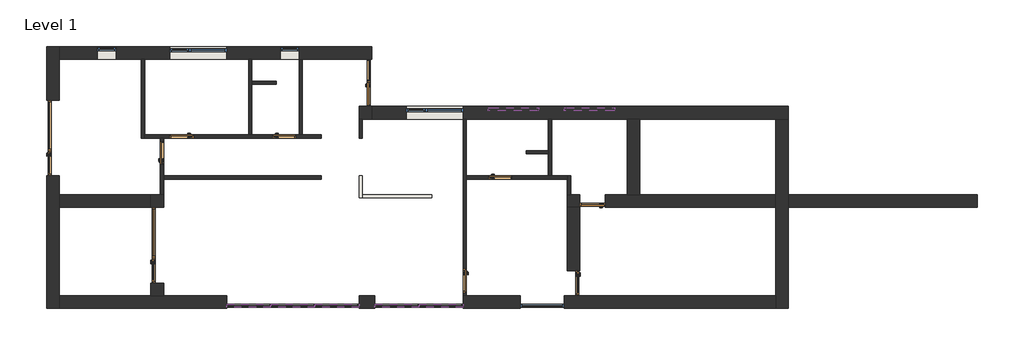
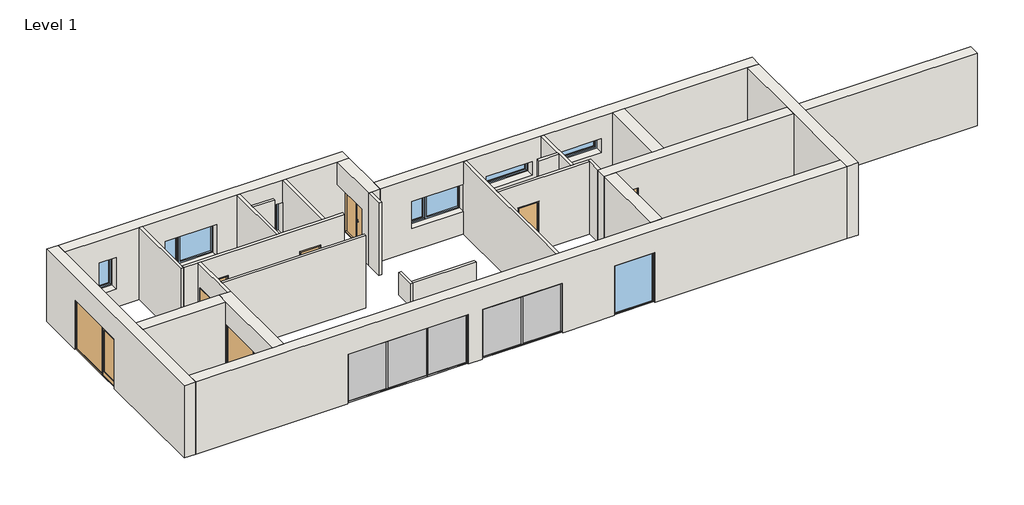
# One storey: 26 walls, 17 members, 10 doors, 7 windows, 5 plates.
"""IFC4 building model written with IfcOpenShell, lengths in millimetres."""

from ifc_helpers import new_model, si_unit, origin, origin_with_axes, place, context, project, spatial, polyline, outline, extrude, faceted_brep, transform, mapped, element, save
from components import door_1800x2200_mm_7a9b0269, ext_door_window_assembly_glass_2880x2200_mm_ebeafb6b, ext_single_flush_out_glass_960x2200_mm_f4f0ea2b, ext_single_flush1_960x2200_mm_7c25dc53, int_single_flush1_900x2200_mm_083ae047, int_single_flush1_900x2200_mm_924e3177, rectangular_mullion_exterior_50x115mm_b31c03e9, rectangular_mullion_exterior_50x115mm_eaa21abb, rectangular_mullion_exterior_50x115mm_593a1a29, system_panel_exterior_glass_22mm_baca3ab9, system_panel_exterior_glass_22mm_266c4f93, fixed_1680x2200_mm_e3bfc0e5, single_light_top_hinged_1920x600_dd11e4f9, single_light_720x1400_mm_50d61ae6, window_assembly_individual_2160x1200_mm_f898fd7d, window_assembly_individual_2160x1400_mm_6f070fa8

model = new_model("IFC4")

# Units and contexts
model_context = context("Model", 3, world=origin())
ifc_project = project(units=[si_unit("LENGTHUNIT", "METRE", prefix="MILLI")], contexts=[model_context])

# Site, building, storey
site = spatial("IfcSite", under=ifc_project)
building = spatial("IfcBuilding", under=site)
storey = spatial("IfcBuildingStorey", under=building, Name="Level 1", Elevation=0.0)

# Doors
placement = place(None, origin())
door_1800x2200_mm_shape = door_1800x2200_mm_7a9b0269(model_context)
element("IfcDoor", 1, ObjectType="Ext. Door inw. Window Assembly : 1800x2200 mm", at=placement, inside=storey, context=model_context, shape_type="MappedRepresentation", body=[
    mapped(door_1800x2200_mm_shape, transform((12120.0, 8580.0, 0.0), x_axis=(0.0, -1.0, 0.0), y_axis=(1.0, 0.0, 0.0), z_axis=(0.0, 0.0, 1.0))),
])
ext_door_window_assembly_glass_2880x2200_mm_shape = ext_door_window_assembly_glass_2880x2200_mm_ebeafb6b(model_context)
element("IfcDoor", 2, ObjectType="Ext. Door Window Assembly - Glass : 2880x2200 mm", at=placement, inside=storey, context=model_context, shape_type="MappedRepresentation", body=[
    mapped(ext_door_window_assembly_glass_2880x2200_mm_shape, transform((4200.0, 2400.0, 0.0), x_axis=(0.0, -1.0, 0.0), y_axis=(1.0, 0.0, 0.0), z_axis=(0.0, 0.0, 1.0))),
])
element("IfcDoor", 3, ObjectType="Ext. Door Window Assembly - Glass : 2880x2200 mm", at=placement, inside=storey, context=model_context, shape_type="MappedRepresentation", body=[
    mapped(ext_door_window_assembly_glass_2880x2200_mm_shape, transform((240.0, 6480.0, 0.0), x_axis=(0.0, -1.0, 0.0), y_axis=(1.0, 0.0, 0.0), z_axis=(0.0, 0.0, 1.0))),
])
ext_single_flush_out_glass_960x2200_mm_shape = ext_single_flush_out_glass_960x2200_mm_f4f0ea2b(model_context)
element("IfcDoor", 4, ObjectType="Ext. Single-Flush out - Glass : 960x2200 mm", at=placement, inside=storey, context=model_context, shape_type="MappedRepresentation", body=[
    mapped(ext_single_flush_out_glass_960x2200_mm_shape, transform((20040.0, 960.0, 0.0), x_axis=(0.0, -1.0, 0.0), y_axis=(1.0, 0.0, 0.0), z_axis=(0.0, 0.0, 1.0))),
])
ext_single_flush1_960x2200_mm_shape = ext_single_flush1_960x2200_mm_7c25dc53(model_context)
element("IfcDoor", 5, ObjectType="Ext. Single-Flush1 : 960x2200 mm", at=placement, inside=storey, context=model_context, shape_type="MappedRepresentation", body=[
    mapped(ext_single_flush1_960x2200_mm_shape, transform((20760.0, 4080.0, 0.0), x_axis=(-1.0, 0.0, 0.0), y_axis=(0.0, -1.0, 0.0), z_axis=(0.0, 0.0, 1.0))),
])
int_single_flush1_900x2200_mm_shape = int_single_flush1_900x2200_mm_083ae047(model_context)
element("IfcDoor", 6, ObjectType="Int. Single-Flush1 : 900x2200 mm", at=placement, inside=storey, context=model_context, shape_type="MappedRepresentation", body=[
    mapped(int_single_flush1_900x2200_mm_shape, transform((4380.0, 5910.0, 0.0), x_axis=(0.0, 1.0, 0.0), y_axis=(-1.0, 0.0, 0.0), z_axis=(0.0, 0.0, 1.0))),
])
element("IfcDoor", 7, ObjectType="Int. Single-Flush1 : 900x2200 mm", at=placement, inside=storey, context=model_context, shape_type="MappedRepresentation", body=[
    mapped(int_single_flush1_900x2200_mm_shape, transform((9030.0, 6540.0, 0.0), x_axis=(1.0, 0.0, 0.0), y_axis=(0.0, 1.0, 0.0), z_axis=(0.0, 0.0, 1.0))),
])
element("IfcDoor", 8, ObjectType="Int. Single-Flush1 : 900x2200 mm", at=placement, inside=storey, context=model_context, shape_type="MappedRepresentation", body=[
    mapped(int_single_flush1_900x2200_mm_shape, transform((17250.0, 4980.0, 0.0), x_axis=(1.0, 0.0, 0.0), y_axis=(0.0, 1.0, 0.0), z_axis=(0.0, 0.0, 1.0))),
])
element("IfcDoor", 9, ObjectType="Int. Single-Flush1 : 900x2200 mm", at=placement, inside=storey, context=model_context, shape_type="MappedRepresentation", body=[
    mapped(int_single_flush1_900x2200_mm_shape, transform((15900.0, 1050.0, 0.0), x_axis=(0.0, -1.0, 0.0), y_axis=(1.0, 0.0, 0.0), z_axis=(0.0, 0.0, 1.0))),
])
int_single_flush1_900x2200_mm_2_shape = int_single_flush1_900x2200_mm_924e3177(model_context)
element("IfcDoor", 10, ObjectType="Int. Single-Flush1 : 900x2200 mm", at=placement, inside=storey, context=model_context, shape_type="MappedRepresentation", body=[
    mapped(int_single_flush1_900x2200_mm_2_shape, transform((5130.0, 6540.0, 0.0), x_axis=(-1.0, 0.0, 0.0), y_axis=(0.0, -1.0, 0.0), z_axis=(0.0, 0.0, 1.0))),
])

# Members
rectangular_mullion_exterior_50x115mm_shape = rectangular_mullion_exterior_50x115mm_b31c03e9(model_context)
element("IfcMember", 11, ObjectType="Rectangular Mullion : Exterior - 50x115mm", at=placement, inside=storey, context=model_context, shape_type="MappedRepresentation", body=[
    mapped(rectangular_mullion_exterior_50x115mm_shape, transform((6840.0, 50.0, 2200.0), x_axis=(0.0, 0.0, 1.0), y_axis=(0.0, 1.0, 0.0), z_axis=(-1.0, 0.0, 0.0))),
])
element("IfcMember", 12, ObjectType="Rectangular Mullion : Exterior - 50x115mm", at=placement, inside=storey, context=model_context, shape_type="MappedRepresentation", body=[
    mapped(rectangular_mullion_exterior_50x115mm_shape, transform((12480.0, 50.0, 2200.0), x_axis=(0.0, 0.0, 1.0), y_axis=(0.0, 1.0, 0.0), z_axis=(-1.0, 0.0, 0.0))),
])
element("IfcMember", 13, ObjectType="Rectangular Mullion : Exterior - 50x115mm", at=placement, inside=storey, context=model_context, shape_type="MappedRepresentation", body=[
    mapped(rectangular_mullion_exterior_50x115mm_shape, transform((11880.0, 50.0, 0.0), x_axis=(0.0, 0.0, -1.0), y_axis=(0.0, 1.0, 0.0), z_axis=(1.0, 0.0, 0.0))),
])
element("IfcMember", 14, ObjectType="Rectangular Mullion : Exterior - 50x115mm", at=placement, inside=storey, context=model_context, shape_type="MappedRepresentation", body=[
    mapped(rectangular_mullion_exterior_50x115mm_shape, transform((15840.0, 50.0, 0.0), x_axis=(0.0, 0.0, -1.0), y_axis=(0.0, 1.0, 0.0), z_axis=(1.0, 0.0, 0.0))),
])
rectangular_mullion_exterior_50x115mm_2_shape = rectangular_mullion_exterior_50x115mm_eaa21abb(model_context)
element("IfcMember", 15, ObjectType="Rectangular Mullion : Exterior - 50x115mm", at=placement, inside=storey, context=model_context, shape_type="MappedRepresentation", body=[
    mapped(rectangular_mullion_exterior_50x115mm_2_shape, transform((8520.0, 50.0, 50.0), x_axis=(-1.0, 0.0, 0.0), y_axis=(0.0, 1.0, 0.0), z_axis=(0.0, 0.0, -1.0))),
])
element("IfcMember", 16, ObjectType="Rectangular Mullion : Exterior - 50x115mm", at=placement, inside=storey, context=model_context, shape_type="MappedRepresentation", body=[
    mapped(rectangular_mullion_exterior_50x115mm_2_shape, transform((10200.0, 50.0, 50.0), x_axis=(-1.0, 0.0, 0.0), y_axis=(0.0, 1.0, 0.0), z_axis=(0.0, 0.0, -1.0))),
])
element("IfcMember", 17, ObjectType="Rectangular Mullion : Exterior - 50x115mm", at=placement, inside=storey, context=model_context, shape_type="MappedRepresentation", body=[
    mapped(rectangular_mullion_exterior_50x115mm_2_shape, transform((14160.0, 50.0, 50.0), x_axis=(-1.0, 0.0, 0.0), y_axis=(0.0, 1.0, 0.0), z_axis=(0.0, 0.0, -1.0))),
])
element("IfcMember", 18, ObjectType="Rectangular Mullion : Exterior - 50x115mm", at=placement, inside=storey, context=model_context, shape_type="MappedRepresentation", body=[
    mapped(rectangular_mullion_exterior_50x115mm_shape, transform((8520.0, 50.0, 0.0), x_axis=(0.0, 0.0, -1.0), y_axis=(0.0, 1.0, 0.0), z_axis=(1.0, 0.0, 0.0))),
])
element("IfcMember", 19, ObjectType="Rectangular Mullion : Exterior - 50x115mm", at=placement, inside=storey, context=model_context, shape_type="MappedRepresentation", body=[
    mapped(rectangular_mullion_exterior_50x115mm_shape, transform((14160.0, 50.0, 0.0), x_axis=(0.0, 0.0, -1.0), y_axis=(0.0, 1.0, 0.0), z_axis=(1.0, 0.0, 0.0))),
])
element("IfcMember", 20, ObjectType="Rectangular Mullion : Exterior - 50x115mm", at=placement, inside=storey, context=model_context, shape_type="MappedRepresentation", body=[
    mapped(rectangular_mullion_exterior_50x115mm_shape, transform((10200.0, 50.0, 0.0), x_axis=(0.0, 0.0, -1.0), y_axis=(0.0, 1.0, 0.0), z_axis=(1.0, 0.0, 0.0))),
])
element("IfcMember", 21, ObjectType="Rectangular Mullion : Exterior - 50x115mm", at=placement, inside=storey, context=model_context, shape_type="MappedRepresentation", body=[
    mapped(rectangular_mullion_exterior_50x115mm_shape, transform((8520.0, 50.0, 2200.0), x_axis=(0.0, 0.0, 1.0), y_axis=(0.0, 1.0, 0.0), z_axis=(-1.0, 0.0, 0.0))),
])
element("IfcMember", 22, ObjectType="Rectangular Mullion : Exterior - 50x115mm", at=placement, inside=storey, context=model_context, shape_type="MappedRepresentation", body=[
    mapped(rectangular_mullion_exterior_50x115mm_shape, transform((10200.0, 50.0, 2200.0), x_axis=(0.0, 0.0, 1.0), y_axis=(0.0, 1.0, 0.0), z_axis=(-1.0, 0.0, 0.0))),
])
element("IfcMember", 23, ObjectType="Rectangular Mullion : Exterior - 50x115mm", at=placement, inside=storey, context=model_context, shape_type="MappedRepresentation", body=[
    mapped(rectangular_mullion_exterior_50x115mm_shape, transform((14160.0, 50.0, 2200.0), x_axis=(0.0, 0.0, 1.0), y_axis=(0.0, 1.0, 0.0), z_axis=(-1.0, 0.0, 0.0))),
])
rectangular_mullion_exterior_50x115mm_3_shape = rectangular_mullion_exterior_50x115mm_593a1a29(model_context)
element("IfcMember", 24, ObjectType="Rectangular Mullion : Exterior - 50x115mm", at=placement, inside=storey, context=model_context, shape_type="MappedRepresentation", body=[
    mapped(rectangular_mullion_exterior_50x115mm_3_shape, transform((11880.0, 50.0, 2150.0), x_axis=(1.0, 0.0, 0.0), y_axis=(0.0, 1.0, 0.0), z_axis=(0.0, 0.0, 1.0))),
])
element("IfcMember", 25, ObjectType="Rectangular Mullion : Exterior - 50x115mm", at=placement, inside=storey, context=model_context, shape_type="MappedRepresentation", body=[
    mapped(rectangular_mullion_exterior_50x115mm_3_shape, transform((15840.0, 50.0, 2150.0), x_axis=(1.0, 0.0, 0.0), y_axis=(0.0, 1.0, 0.0), z_axis=(0.0, 0.0, 1.0))),
])
element("IfcMember", 26, ObjectType="Rectangular Mullion : Exterior - 50x115mm", at=placement, inside=storey, context=model_context, shape_type="MappedRepresentation", body=[
    mapped(rectangular_mullion_exterior_50x115mm_3_shape, transform((6840.0, 50.0, 50.0), x_axis=(-1.0, 0.0, 0.0), y_axis=(0.0, 1.0, 0.0), z_axis=(0.0, 0.0, -1.0))),
])
element("IfcMember", 27, ObjectType="Rectangular Mullion : Exterior - 50x115mm", at=placement, inside=storey, context=model_context, shape_type="MappedRepresentation", body=[
    mapped(rectangular_mullion_exterior_50x115mm_3_shape, transform((12480.0, 50.0, 50.0), x_axis=(-1.0, 0.0, 0.0), y_axis=(0.0, 1.0, 0.0), z_axis=(0.0, 0.0, -1.0))),
])

# Plates
system_panel_exterior_glass_22mm_shape = system_panel_exterior_glass_22mm_baca3ab9(model_context)
element("IfcPlate", 28, ObjectType="System Panel : Exterior - Glass 22mm", at=placement, inside=storey, context=model_context, shape_type="MappedRepresentation", body=[
    mapped(system_panel_exterior_glass_22mm_shape, transform((11027.5, 50.0, 50.0), x_axis=(-1.0, 0.0, 0.0), y_axis=(0.0, -1.0, 0.0), z_axis=(0.0, 0.0, 1.0))),
])
element("IfcPlate", 29, ObjectType="System Panel : Exterior - Glass 22mm", at=placement, inside=storey, context=model_context, shape_type="MappedRepresentation", body=[
    mapped(system_panel_exterior_glass_22mm_shape, transform((7692.5, 50.0, 50.0), x_axis=(-1.0, 0.0, 0.0), y_axis=(0.0, -1.0, 0.0), z_axis=(0.0, 0.0, 1.0))),
])
element("IfcPlate", 30, ObjectType="System Panel : Exterior - Glass 22mm", at=placement, inside=storey, context=model_context, shape_type="MappedRepresentation", body=[
    mapped(system_panel_exterior_glass_22mm_shape, transform((14987.5, 50.0, 50.0), x_axis=(-1.0, 0.0, 0.0), y_axis=(0.0, -1.0, 0.0), z_axis=(0.0, 0.0, 1.0))),
])
element("IfcPlate", 31, ObjectType="System Panel : Exterior - Glass 22mm", at=placement, inside=storey, context=model_context, shape_type="MappedRepresentation", body=[
    mapped(system_panel_exterior_glass_22mm_shape, transform((13332.5, 50.0, 50.0), x_axis=(-1.0, 0.0, 0.0), y_axis=(0.0, -1.0, 0.0), z_axis=(0.0, 0.0, 1.0))),
])
system_panel_exterior_glass_22mm_2_shape = system_panel_exterior_glass_22mm_266c4f93(model_context)
element("IfcPlate", 32, ObjectType="System Panel : Exterior - Glass 22mm", at=placement, inside=storey, context=model_context, shape_type="MappedRepresentation", body=[
    mapped(system_panel_exterior_glass_22mm_2_shape, transform((9360.0, 50.0, 50.0), x_axis=(-1.0, 0.0, 0.0), y_axis=(0.0, -1.0, 0.0), z_axis=(0.0, 0.0, 1.0))),
])

# Walls
element("IfcWall", 33, ObjectType="Generic - 120mm (Interior)", at=placement, inside=storey, context=model_context, shape_type="Brep", body=[
    faceted_brep([(3600.0, 9480.0, 0.0), (3600.0, 6480.0, 0.0), (3600.0, 6480.0, 3200.0), (3600.0, 9480.0, 3200.0), (3720.0, 9480.0, 0.0), (3720.0, 9480.0, 3200.0), (3720.0, 6600.0, 3200.0), (3720.0, 6480.0, 3200.0), (3720.0, 6480.0, 0.0), (3720.0, 6600.0, 0.0)], [[[0, 1, 2, 3]], [[4, 5, 6, 7, 8, 9]], [[1, 0, 4, 9, 8]], [[3, 2, 7, 6, 5]], [[2, 1, 8, 7]], [[0, 3, 5, 4]]]),
])
element("IfcWall", 34, ObjectType="Generic - 120mm (Interior)", at=placement, inside=storey, context=model_context, shape_type="Brep", body=[
    faceted_brep([(10440.0, 6480.0, 0.0), (10440.0, 6480.0, 3200.0), (4440.0, 6480.0, 3200.0), (4320.0, 6480.0, 3200.0), (3720.0, 6480.0, 3200.0), (3720.0, 6480.0, 0.0), (4320.0, 6480.0, 0.0), (4440.0, 6480.0, 0.0), (4680.0, 6480.0, 0.0), (4680.0, 6480.0, 2200.0), (5580.0, 6480.0, 2200.0), (5580.0, 6480.0, 0.0), (8580.0, 6480.0, 0.0), (8580.0, 6480.0, 2200.0), (9480.0, 6480.0, 2200.0), (9480.0, 6480.0, 0.0), (10440.0, 6600.0, 3200.0), (10440.0, 6600.0, 0.0), (9720.0, 6600.0, 0.0), (9600.0, 6600.0, 0.0), (9480.0, 6600.0, 0.0), (9480.0, 6600.0, 2200.0), (8580.0, 6600.0, 2200.0), (8580.0, 6600.0, 0.0), (7800.0, 6600.0, 0.0), (7680.0, 6600.0, 0.0), (5580.0, 6600.0, 0.0), (5580.0, 6600.0, 2200.0), (4680.0, 6600.0, 2200.0), (4680.0, 6600.0, 0.0), (3720.0, 6600.0, 0.0), (3720.0, 6600.0, 3200.0), (7680.0, 6600.0, 3200.0), (7800.0, 6600.0, 3200.0), (9600.0, 6600.0, 3200.0), (9720.0, 6600.0, 3200.0)], [[[0, 1, 2, 3, 4, 5, 6, 7, 8, 9, 10, 11, 12, 13, 14, 15]], [[16, 17, 18, 19, 20, 21, 22, 23, 24, 25, 26, 27, 28, 29, 30, 31, 32, 33, 34, 35]], [[17, 0, 15, 20, 19, 18]], [[5, 30, 29, 8, 7, 6]], [[23, 12, 11, 26, 25, 24]], [[1, 0, 17, 16]], [[4, 3, 2, 1, 16, 35, 34, 33, 32, 31]], [[5, 4, 31, 30]], [[14, 21, 20, 15]], [[21, 14, 13, 22]], [[22, 13, 12, 23]], [[28, 9, 8, 29]], [[9, 28, 27, 10]], [[10, 27, 26, 11]]]),
])
element("IfcWall", 35, ObjectType="Generic - 120mm (Interior)", at=placement, inside=storey, context=model_context, shape_type="Brep", body=[
    faceted_brep([(4440.0, 6480.0, 3200.0), (4440.0, 5040.0, 3200.0), (4440.0, 4920.0, 3200.0), (4440.0, 4320.0, 3200.0), (4440.0, 4320.0, 0.0), (4440.0, 4920.0, 0.0), (4440.0, 5040.0, 0.0), (4440.0, 5460.0, 0.0), (4440.0, 5460.0, 2200.0), (4440.0, 6360.0, 2200.0), (4440.0, 6360.0, 0.0), (4440.0, 6480.0, 0.0), (4320.0, 4320.0, 3200.0), (4320.0, 6480.0, 3200.0), (4320.0, 6480.0, 0.0), (4320.0, 6360.0, 0.0), (4320.0, 6360.0, 2200.0), (4320.0, 5460.0, 2200.0), (4320.0, 5460.0, 0.0), (4320.0, 4320.0, 0.0)], [[[0, 1, 2, 3, 4, 5, 6, 7, 8, 9, 10, 11]], [[12, 13, 14, 15, 16, 17, 18, 19]], [[14, 11, 10, 15]], [[4, 19, 18, 7, 6, 5]], [[3, 2, 1, 0, 13, 12]], [[0, 11, 14, 13]], [[4, 3, 12, 19]], [[9, 16, 15, 10]], [[16, 9, 8, 17]], [[17, 8, 7, 18]]]),
])
element("IfcWall", 36, ObjectType="Generic - 120mm (Interior)", at=placement, inside=storey, context=model_context, shape_type="Brep", body=[
    faceted_brep([(7800.0, 6600.0, 0.0), (7800.0, 8520.0, 0.0), (7800.0, 8640.0, 0.0), (7800.0, 9480.0, 0.0), (7800.0, 9480.0, 3200.0), (7800.0, 8640.0, 3200.0), (7800.0, 8520.0, 3200.0), (7800.0, 6600.0, 3200.0), (7680.0, 6600.0, 0.0), (7680.0, 6600.0, 3200.0), (7680.0, 9480.0, 3200.0), (7680.0, 9480.0, 0.0)], [[[0, 1, 2, 3, 4, 5, 6, 7]], [[8, 9, 10, 11]], [[3, 2, 1, 0, 8, 11]], [[7, 6, 5, 4, 10, 9]], [[0, 7, 9, 8]], [[4, 3, 11, 10]]]),
])
element("IfcWall", 37, ObjectType="Generic - 120mm (Interior)", at=placement, inside=storey, context=model_context, shape_type="SweptSolid", body=[
    extrude(outline(polyline([(9720.0, 9480.0), (9720.0, 6600.0), (9600.0, 6600.0), (9600.0, 9480.0), (9720.0, 9480.0)])), origin_with_axes(), (0.0, 0.0, 1.0), 3200.0),
])
element("IfcWall", 38, ObjectType="Generic - 120mm (Interior)", at=placement, inside=storey, context=model_context, shape_type="Brep", body=[
    faceted_brep([(15960.0, 7200.0, 3200.0), (15960.0, 5040.0, 3200.0), (15960.0, 4920.0, 3200.0), (15960.0, 480.0, 3200.0), (15960.0, 480.0, 0.0), (15960.0, 600.0, 0.0), (15960.0, 600.0, 2200.0), (15960.0, 1500.0, 2200.0), (15960.0, 1500.0, 0.0), (15960.0, 4920.0, 0.0), (15960.0, 5040.0, 0.0), (15960.0, 7200.0, 0.0), (15840.0, 480.0, 3200.0), (15840.0, 7200.0, 3200.0), (15840.0, 7200.0, 2200.0), (15840.0, 7200.0, 1000.0), (15840.0, 7200.0, 0.0), (15840.0, 1500.0, 0.0), (15840.0, 1500.0, 2200.0), (15840.0, 600.0, 2200.0), (15840.0, 600.0, 0.0), (15840.0, 480.0, 0.0), (15840.0, 480.0, 2200.0)], [[[0, 1, 2, 3, 4, 5, 6, 7, 8, 9, 10, 11]], [[12, 13, 14, 15, 16, 17, 18, 19, 20, 21, 22]], [[4, 21, 20, 5]], [[16, 11, 10, 9, 8, 17]], [[3, 2, 1, 0, 13, 12]], [[0, 11, 16, 15, 14, 13]], [[4, 3, 12, 22, 21]], [[19, 6, 5, 20]], [[6, 19, 18, 7]], [[7, 18, 17, 8]]]),
])
element("IfcWall", 39, ObjectType="Generic - 120mm (Interior)", at=placement, inside=storey, context=model_context, shape_type="Brep", body=[
    faceted_brep([(19920.0, 4320.0, 0.0), (19920.0, 5040.0, 0.0), (19920.0, 5040.0, 3200.0), (19920.0, 4320.0, 3200.0), (19800.0, 4320.0, 0.0), (19800.0, 4320.0, 3200.0), (19800.0, 4920.0, 3200.0), (19800.0, 5040.0, 3200.0), (19800.0, 5040.0, 0.0), (19800.0, 4920.0, 0.0)], [[[0, 1, 2, 3]], [[4, 5, 6, 7, 8, 9]], [[1, 0, 4, 9, 8]], [[3, 2, 7, 6, 5]], [[2, 1, 8, 7]], [[0, 3, 5, 4]]]),
])
element("IfcWall", 40, ObjectType="Generic - 120mm (Interior)", at=placement, inside=storey, context=model_context, shape_type="Brep", body=[
    faceted_brep([(15960.0, 5040.0, 3200.0), (19080.0, 5040.0, 3200.0), (19200.0, 5040.0, 3200.0), (19800.0, 5040.0, 3200.0), (19800.0, 5040.0, 0.0), (19200.0, 5040.0, 0.0), (19080.0, 5040.0, 0.0), (17700.0, 5040.0, 0.0), (17700.0, 5040.0, 2200.0), (16800.0, 5040.0, 2200.0), (16800.0, 5040.0, 0.0), (15960.0, 5040.0, 0.0), (19800.0, 4920.0, 3200.0), (15960.0, 4920.0, 3200.0), (15960.0, 4920.0, 0.0), (16800.0, 4920.0, 0.0), (16800.0, 4920.0, 2200.0), (17700.0, 4920.0, 2200.0), (17700.0, 4920.0, 0.0), (19800.0, 4920.0, 0.0)], [[[0, 1, 2, 3, 4, 5, 6, 7, 8, 9, 10, 11]], [[12, 13, 14, 15, 16, 17, 18, 19]], [[4, 19, 18, 7, 6, 5]], [[14, 11, 10, 15]], [[3, 2, 1, 0, 13, 12]], [[4, 3, 12, 19]], [[0, 11, 14, 13]], [[17, 8, 7, 18]], [[8, 17, 16, 9]], [[9, 16, 15, 10]]]),
])
element("IfcWall", 41, ObjectType="Generic - 120mm (Interior)", at=placement, inside=storey, context=model_context, shape_type="Brep", body=[
    faceted_brep([(19200.0, 5040.0, 0.0), (19200.0, 7200.0, 0.0), (19200.0, 7200.0, 3200.0), (19200.0, 5040.0, 3200.0), (19080.0, 5040.0, 0.0), (19080.0, 5040.0, 3200.0), (19080.0, 5880.0, 3200.0), (19080.0, 6000.0, 3200.0), (19080.0, 7200.0, 3200.0), (19080.0, 7200.0, 0.0), (19080.0, 6000.0, 0.0), (19080.0, 5880.0, 0.0)], [[[0, 1, 2, 3]], [[4, 5, 6, 7, 8, 9, 10, 11]], [[1, 0, 4, 11, 10, 9]], [[3, 2, 8, 7, 6, 5]], [[0, 3, 5, 4]], [[2, 1, 9, 8]]]),
])
element("IfcWall", 42, ObjectType="Generic - 120mm (Interior)", at=placement, inside=storey, context=model_context, shape_type="SweptSolid", body=[
    extrude(outline(polyline([(18240.0, 6000.0), (19080.0, 6000.0), (19080.0, 5880.0), (18240.0, 5880.0), (18240.0, 6000.0)])), origin_with_axes(), (0.0, 0.0, 1.0), 3200.0),
])
element("IfcWall", 43, ObjectType="Generic - 120mm (Interior)", at=placement, inside=storey, context=model_context, shape_type="SweptSolid", body=[
    extrude(outline(polyline([(8720.0, 8520.0), (7800.0, 8520.0), (7800.0, 8640.0), (8720.0, 8640.0), (8720.0, 8520.0)])), origin_with_axes(), (0.0, 0.0, 1.0), 3200.0),
])
element("IfcWall", 44, ObjectType="Generic - 120mm (Interior)", at=placement, inside=storey, context=model_context, shape_type="SweptSolid", body=[
    extrude(outline(polyline([(10440.0, 4920.0), (4440.0, 4920.0), (4440.0, 5040.0), (10440.0, 5040.0), (10440.0, 4920.0)])), origin_with_axes(), (0.0, 0.0, 1.0), 3200.0),
])
element("IfcWall", 45, ObjectType="Generic - 120mm (Interior)", at=placement, inside=storey, context=model_context, shape_type="Brep", body=[
    faceted_brep([(11880.0, 5040.0, 0.0), (11880.0, 4200.0, 0.0), (11880.0, 4200.0, 1000.0), (11880.0, 5040.0, 1000.0), (12000.0, 5040.0, 0.0), (12000.0, 5040.0, 1000.0), (12000.0, 4320.0, 1000.0), (12000.0, 4200.0, 1000.0), (12000.0, 4200.0, 0.0), (12000.0, 4320.0, 0.0)], [[[0, 1, 2, 3]], [[4, 5, 6, 7, 8, 9]], [[1, 0, 4, 9, 8]], [[3, 2, 7, 6, 5]], [[0, 3, 5, 4]], [[2, 1, 8, 7]]]),
])
element("IfcWall", 46, ObjectType="Generic - 120mm (Interior)", at=placement, inside=storey, context=model_context, shape_type="SweptSolid", body=[
    extrude(outline(polyline([(14640.0, 4200.0), (12000.0, 4200.0), (12000.0, 4320.0), (14640.0, 4320.0), (14640.0, 4200.0)])), origin_with_axes(), (0.0, 0.0, 1.0), 1000.0),
])
element("IfcWall", 47, ObjectType="Generic - 120mm (Interior)", at=placement, inside=storey, context=model_context, shape_type="SweptSolid", body=[
    extrude(outline(polyline([(11880.0, 6480.0), (11880.0, 7200.0), (12000.0, 7200.0), (12000.0, 6480.0), (11880.0, 6480.0)])), origin_with_axes(), (0.0, 0.0, 1.0), 3200.0),
])
element("IfcWall", 48, ObjectType="Generic - 480mm (Exterior)", at=placement, inside=storey, context=model_context, shape_type="Brep", body=[
    faceted_brep([(480.0, 9960.0, 3200.0), (480.0, 9480.0, 3200.0), (480.0, 4320.0, 3200.0), (480.0, 3840.0, 3200.0), (480.0, 480.0, 3200.0), (480.0, 0.0, 3200.0), (480.0, 0.0, 0.0), (480.0, 480.0, 0.0), (480.0, 3840.0, 0.0), (480.0, 4320.0, 0.0), (480.0, 5040.0, 0.0), (480.0, 5040.0, 2212.0), (480.0, 7920.0, 2212.0), (480.0, 7920.0, 0.0), (480.0, 9480.0, 0.0), (480.0, 9960.0, 0.0), (0.0, 0.0, 3200.0), (0.0, 9960.0, 3200.0), (0.0, 9960.0, 0.0), (0.0, 7920.0, 0.0), (0.0, 7920.0, 2212.0), (0.0, 5040.0, 2212.0), (0.0, 5040.0, 0.0), (0.0, 0.0, 0.0)], [[[0, 1, 2, 3, 4, 5, 6, 7, 8, 9, 10, 11, 12, 13, 14, 15]], [[16, 17, 18, 19, 20, 21, 22, 23]], [[18, 15, 14, 13, 19]], [[6, 23, 22, 10, 9, 8, 7]], [[5, 4, 3, 2, 1, 0, 17, 16]], [[0, 15, 18, 17]], [[6, 5, 16, 23]], [[21, 11, 10, 22]], [[11, 21, 20, 12]], [[12, 20, 19, 13]]]),
])
element("IfcWall", 49, ObjectType="Generic - 480mm (Exterior)", at=placement, inside=storey, context=model_context, shape_type="Brep", body=[
    faceted_brep([(480.0, 9480.0, 0.0), (3600.0, 9480.0, 0.0), (3720.0, 9480.0, 0.0), (7680.0, 9480.0, 0.0), (7800.0, 9480.0, 0.0), (9600.0, 9480.0, 0.0), (9720.0, 9480.0, 0.0), (12360.0, 9480.0, 0.0), (12360.0, 9480.0, 2200.0), (12360.0, 9480.0, 3200.0), (11880.0, 9480.0, 3200.0), (9720.0, 9480.0, 3200.0), (9600.0, 9480.0, 3200.0), (7800.0, 9480.0, 3200.0), (7680.0, 9480.0, 3200.0), (3720.0, 9480.0, 3200.0), (3600.0, 9480.0, 3200.0), (480.0, 9480.0, 3200.0), (6840.0, 9480.0, 800.0), (4680.0, 9480.0, 800.0), (4680.0, 9480.0, 2200.0), (6840.0, 9480.0, 2200.0), (8880.0, 9480.0, 800.0), (8880.0, 9480.0, 2200.0), (9600.0, 9480.0, 2200.0), (9600.0, 9480.0, 800.0), (1920.0, 9480.0, 800.0), (1920.0, 9480.0, 2200.0), (2640.0, 9480.0, 2200.0), (2640.0, 9480.0, 800.0), (480.0, 9960.0, 0.0), (480.0, 9960.0, 3200.0), (12360.0, 9960.0, 3200.0), (12360.0, 9960.0, 0.0), (6840.0, 9960.0, 800.0), (6840.0, 9960.0, 2200.0), (4680.0, 9960.0, 2200.0), (4680.0, 9960.0, 800.0), (8880.0, 9960.0, 800.0), (9600.0, 9960.0, 800.0), (9600.0, 9960.0, 2200.0), (8880.0, 9960.0, 2200.0), (1920.0, 9960.0, 800.0), (2640.0, 9960.0, 800.0), (2640.0, 9960.0, 2200.0), (1920.0, 9960.0, 2200.0)], [[[0, 1, 2, 3, 4, 5, 6, 7, 8, 9, 10, 11, 12, 13, 14, 15, 16, 17], [18, 19, 20, 21], [22, 23, 24, 25], [26, 27, 28, 29]], [[30, 31, 32, 33], [34, 35, 36, 37], [38, 39, 40, 41], [42, 43, 44, 45]], [[7, 6, 5, 4, 3, 2, 1, 0, 30, 33]], [[17, 16, 15, 14, 13, 12, 11, 10, 9, 32, 31]], [[0, 17, 31, 30]], [[9, 8, 7, 33, 32]], [[35, 34, 18, 21]], [[36, 35, 21, 20]], [[37, 36, 20, 19]], [[34, 37, 19, 18]], [[23, 22, 38, 41]], [[24, 23, 41, 40]], [[25, 24, 40, 39]], [[22, 25, 39, 38]], [[27, 26, 42, 45]], [[28, 27, 45, 44]], [[29, 28, 44, 43]], [[26, 29, 43, 42]]]),
])
element("IfcWall", 50, ObjectType="Generic - 480mm (Exterior)", at=placement, inside=storey, context=model_context, shape_type="Brep", body=[
    faceted_brep([(11880.0, 7200.0, 3200.0), (11880.0, 9480.0, 3200.0), (11880.0, 9480.0, 2200.0), (11880.0, 7680.0, 2200.0), (11880.0, 7680.0, 0.0), (11880.0, 7200.0, 0.0), (12360.0, 9480.0, 3200.0), (12360.0, 7680.0, 3200.0), (12360.0, 7200.0, 3200.0), (12360.0, 7200.0, 0.0), (12360.0, 7680.0, 0.0), (12360.0, 7680.0, 2200.0), (12360.0, 9480.0, 2200.0), (12000.0, 7200.0, 0.0), (12000.0, 7200.0, 3200.0)], [[[0, 1, 2, 3, 4, 5]], [[6, 7, 8, 9, 10, 11, 12]], [[9, 13, 5, 4, 10]], [[1, 0, 14, 8, 7, 6]], [[1, 6, 12, 2]], [[0, 5, 13, 9, 8, 14]], [[3, 11, 10, 4]], [[11, 3, 2, 12]]]),
])
element("IfcWall", 51, ObjectType="Generic - 480mm (Exterior)", at=placement, inside=storey, context=model_context, shape_type="Brep", body=[
    faceted_brep([(12360.0, 7200.0, 0.0), (15840.0, 7200.0, 0.0), (15960.0, 7200.0, 0.0), (19080.0, 7200.0, 0.0), (19200.0, 7200.0, 0.0), (22080.0, 7200.0, 0.0), (22560.0, 7200.0, 0.0), (27720.0, 7200.0, 0.0), (28200.0, 7200.0, 0.0), (28200.0, 7200.0, 3200.0), (27720.0, 7200.0, 3200.0), (22560.0, 7200.0, 3200.0), (22080.0, 7200.0, 3200.0), (19200.0, 7200.0, 3200.0), (19080.0, 7200.0, 3200.0), (15960.0, 7200.0, 3200.0), (15840.0, 7200.0, 3200.0), (12360.0, 7200.0, 3200.0), (19680.0, 7200.0, 1600.0), (19680.0, 7200.0, 2200.0), (21600.0, 7200.0, 2200.0), (21600.0, 7200.0, 1600.0), (16800.0, 7200.0, 1600.0), (16800.0, 7200.0, 2200.0), (18720.0, 7200.0, 2200.0), (18720.0, 7200.0, 1600.0), (15840.0, 7200.0, 1000.0), (13680.0, 7200.0, 1000.0), (13680.0, 7200.0, 2200.0), (15840.0, 7200.0, 2200.0), (12360.0, 7680.0, 0.0), (12360.0, 7680.0, 2200.0), (12360.0, 7680.0, 3200.0), (28200.0, 7680.0, 3200.0), (28200.0, 7680.0, 0.0), (19680.0, 7680.0, 1600.0), (21600.0, 7680.0, 1600.0), (21600.0, 7680.0, 2200.0), (19680.0, 7680.0, 2200.0), (16800.0, 7680.0, 1600.0), (18720.0, 7680.0, 1600.0), (18720.0, 7680.0, 2200.0), (16800.0, 7680.0, 2200.0), (15840.0, 7680.0, 1000.0), (15840.0, 7680.0, 2200.0), (13680.0, 7680.0, 2200.0), (13680.0, 7680.0, 1000.0)], [[[0, 1, 2, 3, 4, 5, 6, 7, 8, 9, 10, 11, 12, 13, 14, 15, 16, 17], [18, 19, 20, 21], [22, 23, 24, 25], [26, 27, 28, 29]], [[30, 31, 32, 33, 34], [35, 36, 37, 38], [39, 40, 41, 42], [43, 44, 45, 46]], [[8, 7, 6, 5, 4, 3, 2, 1, 0, 30, 34]], [[17, 16, 15, 14, 13, 12, 11, 10, 9, 33, 32]], [[0, 17, 32, 31, 30]], [[9, 8, 34, 33]], [[19, 18, 35, 38]], [[20, 19, 38, 37]], [[21, 20, 37, 36]], [[18, 21, 36, 35]], [[23, 22, 39, 42]], [[24, 23, 42, 41]], [[25, 24, 41, 40]], [[22, 25, 40, 39]], [[44, 43, 26, 29]], [[45, 44, 29, 28]], [[46, 45, 28, 27]], [[43, 46, 27, 26]]]),
])
element("IfcWall", 52, ObjectType="Generic - 480mm (Exterior)", at=placement, inside=storey, context=model_context, shape_type="Brep", body=[
    faceted_brep([(27720.0, 7200.0, 0.0), (27720.0, 4320.0, 0.0), (27720.0, 3840.0, 0.0), (27720.0, 480.0, 0.0), (27720.0, 0.0, 0.0), (27720.0, 0.0, 3200.0), (27720.0, 480.0, 3200.0), (27720.0, 3840.0, 3200.0), (27720.0, 4320.0, 3200.0), (27720.0, 7200.0, 3200.0), (28200.0, 7200.0, 0.0), (28200.0, 7200.0, 3200.0), (28200.0, 4320.0, 3200.0), (28200.0, 3840.0, 3200.0), (28200.0, 0.0, 3200.0), (28200.0, 0.0, 0.0), (28200.0, 3840.0, 0.0), (28200.0, 4320.0, 0.0)], [[[0, 1, 2, 3, 4, 5, 6, 7, 8, 9]], [[10, 11, 12, 13, 14, 15, 16, 17]], [[4, 3, 2, 1, 0, 10, 17, 16, 15]], [[9, 8, 7, 6, 5, 14, 13, 12, 11]], [[0, 9, 11, 10]], [[5, 4, 15, 14]]]),
])
element("IfcWall", 53, ObjectType="Generic - 480mm (Exterior)", at=placement, inside=storey, context=model_context, shape_type="Brep", body=[
    faceted_brep([(480.0, 480.0, 3200.0), (3960.0, 480.0, 3200.0), (4440.0, 480.0, 3200.0), (15840.0, 480.0, 3200.0), (15960.0, 480.0, 3200.0), (19800.0, 480.0, 3200.0), (20280.0, 480.0, 3200.0), (27720.0, 480.0, 3200.0), (27720.0, 480.0, 0.0), (19680.0, 480.0, 0.0), (19680.0, 480.0, 2200.0), (18000.0, 480.0, 2200.0), (18000.0, 480.0, 0.0), (15960.0, 480.0, 0.0), (15840.0, 480.0, 0.0), (15840.0, 480.0, 2200.0), (12480.0, 480.0, 2200.0), (12480.0, 480.0, 0.0), (11880.0, 480.0, 0.0), (11880.0, 480.0, 2200.0), (6840.0, 480.0, 2200.0), (6840.0, 480.0, 0.0), (4440.0, 480.0, 0.0), (3960.0, 480.0, 0.0), (480.0, 480.0, 0.0), (27720.0, 0.0, 3200.0), (480.0, 0.0, 3200.0), (480.0, 0.0, 0.0), (6840.0, 0.0, 0.0), (6840.0, 0.0, 2200.0), (11880.0, 0.0, 2200.0), (11880.0, 0.0, 0.0), (12480.0, 0.0, 0.0), (12480.0, 0.0, 2200.0), (15840.0, 0.0, 2200.0), (15840.0, 0.0, 0.0), (18000.0, 0.0, 0.0), (18000.0, 0.0, 2200.0), (19680.0, 0.0, 2200.0), (19680.0, 0.0, 0.0), (27720.0, 0.0, 0.0)], [[[0, 1, 2, 3, 4, 5, 6, 7, 8, 9, 10, 11, 12, 13, 14, 15, 16, 17, 18, 19, 20, 21, 22, 23, 24]], [[25, 26, 27, 28, 29, 30, 31, 32, 33, 34, 35, 36, 37, 38, 39, 40]], [[8, 40, 39, 9]], [[27, 24, 23, 22, 21, 28]], [[12, 36, 35, 14, 13]], [[31, 18, 17, 32]], [[7, 6, 5, 4, 3, 2, 1, 0, 26, 25]], [[0, 24, 27, 26]], [[8, 7, 25, 40]], [[38, 10, 9, 39]], [[10, 38, 37, 11]], [[11, 37, 36, 12]], [[30, 19, 18, 31]], [[19, 30, 29, 20]], [[20, 29, 28, 21]], [[34, 15, 14, 35]], [[15, 34, 33, 16]], [[16, 33, 32, 17]]]),
])
element("IfcWall", 54, ObjectType="Generic - 480mm (Exterior)", at=placement, inside=storey, context=model_context, shape_type="Brep", body=[
    faceted_brep([(4440.0, 4320.0, 3200.0), (4440.0, 480.0, 3200.0), (4440.0, 480.0, 0.0), (4440.0, 960.0, 0.0), (4440.0, 960.0, 2212.0), (4440.0, 3840.0, 2212.0), (4440.0, 3840.0, 0.0), (4440.0, 4320.0, 0.0), (3960.0, 480.0, 3200.0), (3960.0, 3840.0, 3200.0), (3960.0, 4320.0, 3200.0), (3960.0, 4320.0, 0.0), (3960.0, 3840.0, 0.0), (3960.0, 3840.0, 2212.0), (3960.0, 960.0, 2212.0), (3960.0, 960.0, 0.0), (3960.0, 480.0, 0.0), (4320.0, 4320.0, 0.0), (4320.0, 4320.0, 3200.0)], [[[0, 1, 2, 3, 4, 5, 6, 7]], [[8, 9, 10, 11, 12, 13, 14, 15, 16]], [[2, 16, 15, 3]], [[11, 17, 7, 6, 12]], [[1, 0, 18, 10, 9, 8]], [[2, 1, 8, 16]], [[0, 7, 17, 11, 10, 18]], [[14, 4, 3, 15]], [[4, 14, 13, 5]], [[5, 13, 12, 6]]]),
])
element("IfcWall", 55, ObjectType="Generic - 480mm (Exterior)", at=placement, inside=storey, context=model_context, shape_type="SweptSolid", body=[
    extrude(outline(polyline([(480.0, 4320.0), (3960.0, 4320.0), (3960.0, 3840.0), (480.0, 3840.0), (480.0, 4320.0)])), origin_with_axes(), (0.0, 0.0, 1.0), 3200.0),
])
element("IfcWall", 56, ObjectType="Generic - 480mm (Exterior)", at=placement, inside=storey, context=model_context, shape_type="SweptSolid", body=[
    extrude(outline(polyline([(22080.0, 4320.0), (22080.0, 7200.0), (22560.0, 7200.0), (22560.0, 4320.0), (22080.0, 4320.0)])), origin_with_axes(), (0.0, 0.0, 1.0), 3200.0),
])
element("IfcWall", 57, ObjectType="Generic - 480mm (Exterior)", at=placement, inside=storey, context=model_context, shape_type="Brep", body=[
    faceted_brep([(35400.0, 4320.0, 3200.0), (35400.0, 4320.0, 0.0), (28200.0, 4320.0, 0.0), (28200.0, 4320.0, 3200.0), (35400.0, 3840.0, 0.0), (35400.0, 3840.0, 3200.0), (28200.0, 3840.0, 3200.0), (28200.0, 3840.0, 0.0)], [[[0, 1, 2, 3]], [[4, 5, 6, 7]], [[1, 4, 7, 2]], [[5, 0, 3, 6]], [[1, 0, 5, 4]], [[3, 2, 7, 6]]]),
    faceted_brep([(19800.0, 4320.0, 0.0), (19800.0, 4320.0, 3200.0), (19920.0, 4320.0, 3200.0), (22080.0, 4320.0, 3200.0), (22560.0, 4320.0, 3200.0), (27720.0, 4320.0, 3200.0), (27720.0, 4320.0, 0.0), (22560.0, 4320.0, 0.0), (22080.0, 4320.0, 0.0), (21240.0, 4320.0, 0.0), (21240.0, 4320.0, 2200.0), (20280.0, 4320.0, 2200.0), (20280.0, 4320.0, 0.0), (19920.0, 4320.0, 0.0), (19800.0, 3840.0, 3200.0), (19800.0, 3840.0, 0.0), (20280.0, 3840.0, 0.0), (20280.0, 3840.0, 2200.0), (21240.0, 3840.0, 2200.0), (21240.0, 3840.0, 0.0), (27720.0, 3840.0, 0.0), (27720.0, 3840.0, 3200.0), (20280.0, 3840.0, 3200.0)], [[[0, 1, 2, 3, 4, 5, 6, 7, 8, 9, 10, 11, 12, 13]], [[14, 15, 16, 17, 18, 19, 20, 21, 22]], [[15, 0, 13, 12, 16]], [[19, 9, 8, 7, 6, 20]], [[1, 14, 22, 21, 5, 4, 3, 2]], [[1, 0, 15, 14]], [[6, 5, 21, 20]], [[11, 17, 16, 12]], [[17, 11, 10, 18]], [[18, 10, 9, 19]]]),
])
element("IfcWall", 58, ObjectType="Generic - 480mm (Exterior)", at=placement, inside=storey, context=model_context, shape_type="Brep", body=[
    faceted_brep([(19800.0, 480.0, 3200.0), (19800.0, 3840.0, 3200.0), (19800.0, 3840.0, 0.0), (19800.0, 1440.0, 0.0), (19800.0, 1440.0, 2212.0), (19800.0, 480.0, 2212.0), (20280.0, 3840.0, 3200.0), (20280.0, 480.0, 3200.0), (20280.0, 480.0, 2212.0), (20280.0, 1440.0, 2212.0), (20280.0, 1440.0, 0.0), (20280.0, 3840.0, 0.0), (20280.0, 3840.0, 2200.0)], [[[0, 1, 2, 3, 4, 5]], [[6, 7, 8, 9, 10, 11, 12]], [[2, 11, 10, 3]], [[1, 0, 7, 6]], [[2, 1, 6, 12, 11]], [[7, 0, 5, 8]], [[4, 9, 8, 5]], [[9, 4, 3, 10]]]),
])

# Windows
fixed_1680x2200_mm_shape = fixed_1680x2200_mm_e3bfc0e5(model_context)
element("IfcWindow", 59, ObjectType="Fixed : 1680x2200 mm", at=placement, inside=storey, context=model_context, shape_type="MappedRepresentation", body=[
    mapped(fixed_1680x2200_mm_shape, transform((18840.0, 240.0, -800.0), x_axis=(-1.0, 0.0, 0.0), y_axis=(0.0, -1.0, 0.0), z_axis=(0.0, 0.0, 1.0))),
])
single_light_top_hinged_1920x600_shape = single_light_top_hinged_1920x600_dd11e4f9(model_context)
element("IfcWindow", 60, ObjectType="Single-Light (Top Hinged) : 1920x600", at=placement, inside=storey, context=model_context, shape_type="MappedRepresentation", body=[
    mapped(single_light_top_hinged_1920x600_shape, transform((17760.0, 7440.0, 800.0), x_axis=(1.0, 0.0, 0.0), y_axis=(0.0, 1.0, 0.0), z_axis=(0.0, 0.0, 1.0))),
])
element("IfcWindow", 61, ObjectType="Single-Light (Top Hinged) : 1920x600", at=placement, inside=storey, context=model_context, shape_type="MappedRepresentation", body=[
    mapped(single_light_top_hinged_1920x600_shape, transform((20640.0, 7440.0, 800.0), x_axis=(1.0, 0.0, 0.0), y_axis=(0.0, 1.0, 0.0), z_axis=(0.0, 0.0, 1.0))),
])
single_light_720x1400_mm_shape = single_light_720x1400_mm_50d61ae6(model_context)
element("IfcWindow", 62, ObjectType="Single-Light : 720x1400 mm", at=placement, inside=storey, context=model_context, shape_type="MappedRepresentation", body=[
    mapped(single_light_720x1400_mm_shape, transform((2280.0, 9720.0, 0.0), x_axis=(1.0, 0.0, 0.0), y_axis=(0.0, 1.0, 0.0), z_axis=(0.0, 0.0, 1.0))),
])
element("IfcWindow", 63, ObjectType="Single-Light : 720x1400 mm", at=placement, inside=storey, context=model_context, shape_type="MappedRepresentation", body=[
    mapped(single_light_720x1400_mm_shape, transform((9240.0, 9720.0, 0.0), x_axis=(1.0, 0.0, 0.0), y_axis=(0.0, 1.0, 0.0), z_axis=(0.0, 0.0, 1.0))),
])
window_assembly_individual_2160x1200_mm_shape = window_assembly_individual_2160x1200_mm_f898fd7d(model_context)
element("IfcWindow", 64, ObjectType="Window Assembly Individual : 2160x1200 mm", at=placement, inside=storey, context=model_context, shape_type="MappedRepresentation", body=[
    mapped(window_assembly_individual_2160x1200_mm_shape, transform((14760.0, 7440.0, 200.0), x_axis=(-1.0, 0.0, 0.0), y_axis=(0.0, -1.0, 0.0), z_axis=(0.0, 0.0, 1.0))),
])
window_assembly_individual_2160x1400_mm_shape = window_assembly_individual_2160x1400_mm_6f070fa8(model_context)
element("IfcWindow", 65, ObjectType="Window Assembly Individual : 2160x1400 mm", at=placement, inside=storey, context=model_context, shape_type="MappedRepresentation", body=[
    mapped(window_assembly_individual_2160x1400_mm_shape, transform((5760.0, 9720.0, 0.0), x_axis=(-1.0, 0.0, 0.0), y_axis=(0.0, -1.0, 0.0), z_axis=(0.0, 0.0, 1.0))),
])

save(model, "model.ifc")
